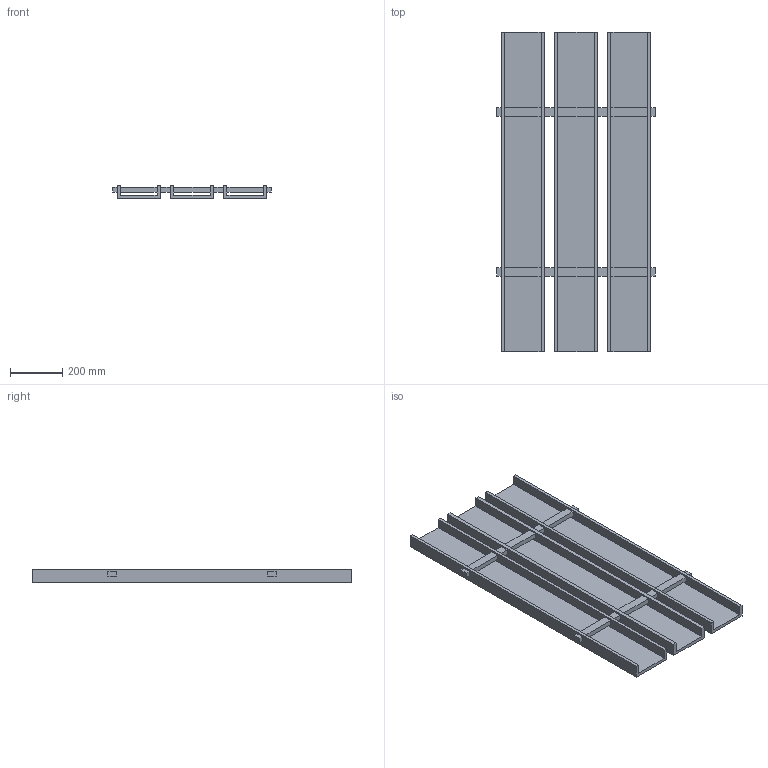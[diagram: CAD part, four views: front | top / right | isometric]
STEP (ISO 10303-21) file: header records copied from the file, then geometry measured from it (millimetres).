
FILE_DESCRIPTION(/* description */ (''),/* implementation_level */ '2;1');
FILE_NAME(/* name */ 'PET GRILLA_6.5x2_4ft',/* time_stamp */ '2024-10-15T14:22:28-05:00',/* author */ (''),/* organization */ (''),/* preprocessor_version */ 'ST-DEVELOPER v19.2',/* originating_system */ 'Rhino 8.4',/* authorisation */ '');
FILE_SCHEMA (('CONFIG_CONTROL_DESIGN'));
Length unit declared in the file: inch
Products named in the file (1): Document
Bounding box: 603.25 x 1219.2 x 50.8 mm (x, y, z)
Volume: 11846311 mm3; surface area: 1971447.7 mm2
Topology: 1 solids, 1 shells, 90 faces, 240 edges, 160 vertices
Faces by surface type: plane 90
Entity records: 2534 total; most frequent: CARTESIAN_POINT 732, ORIENTED_EDGE 480, EDGE_CURVE 240, B_SPLINE_CURVE_WITH_KNOTS 240, VERTEX_POINT 160, EDGE_LOOP 114, DIRECTION 94, AXIS2_PLACEMENT_3D 92
